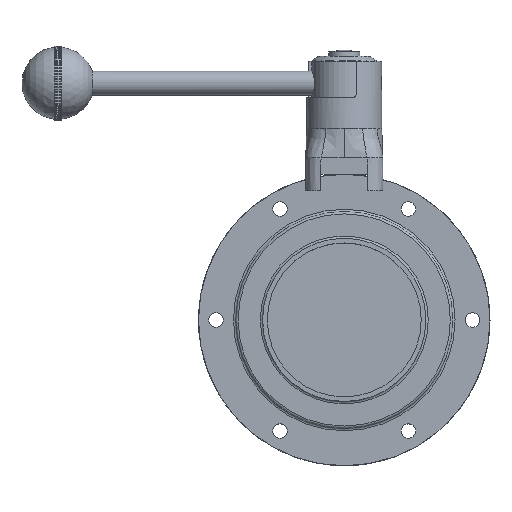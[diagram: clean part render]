
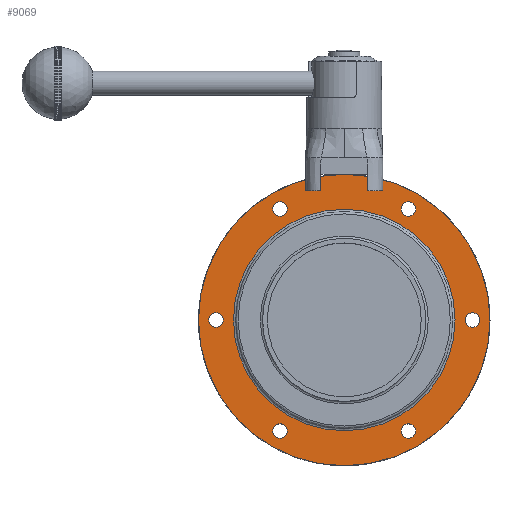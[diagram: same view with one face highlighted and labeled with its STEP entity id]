
A CAD part, top view. The second image highlights one B-rep face of the part: STEP entity #9069.
In plain terms, the highlighted planar face has unit normal (0, 0, 1) as drawn and (1, 0, 0) by its records, which use the part's own axes.
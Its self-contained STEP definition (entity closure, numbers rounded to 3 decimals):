
#814=FACE_BOUND('',#2432,.T.);
#815=FACE_BOUND('',#2433,.T.);
#816=FACE_BOUND('',#2434,.T.);
#817=FACE_BOUND('',#2435,.T.);
#818=FACE_BOUND('',#2436,.T.);
#819=FACE_BOUND('',#2437,.T.);
#820=FACE_BOUND('',#2438,.T.);
#1166=PLANE('',#10199);
#1812=FACE_OUTER_BOUND('',#2431,.T.);
#2431=EDGE_LOOP('',(#8506));
#2432=EDGE_LOOP('',(#8507));
#2433=EDGE_LOOP('',(#8508));
#2434=EDGE_LOOP('',(#8509));
#2435=EDGE_LOOP('',(#8510));
#2436=EDGE_LOOP('',(#8511));
#2437=EDGE_LOOP('',(#8512));
#2438=EDGE_LOOP('',(#8513));
#3864=CIRCLE('',#10180,62.5);
#3866=CIRCLE('',#10184,3.1);
#3867=CIRCLE('',#10186,3.1);
#3868=CIRCLE('',#10188,3.1);
#3869=CIRCLE('',#10190,3.1);
#3870=CIRCLE('',#10192,3.1);
#3871=CIRCLE('',#10194,3.1);
#3874=CIRCLE('',#10200,47.5);
#4708=VERTEX_POINT('',#26194);
#4711=VERTEX_POINT('',#26222);
#4712=VERTEX_POINT('',#26226);
#4713=VERTEX_POINT('',#26230);
#4714=VERTEX_POINT('',#26234);
#4715=VERTEX_POINT('',#26238);
#4716=VERTEX_POINT('',#26242);
#4718=VERTEX_POINT('',#26251);
#5966=EDGE_CURVE('',#4708,#4708,#3864,.T.);
#5972=EDGE_CURVE('',#4711,#4711,#3866,.T.);
#5974=EDGE_CURVE('',#4712,#4712,#3867,.T.);
#5976=EDGE_CURVE('',#4713,#4713,#3868,.T.);
#5978=EDGE_CURVE('',#4714,#4714,#3869,.T.);
#5980=EDGE_CURVE('',#4715,#4715,#3870,.T.);
#5982=EDGE_CURVE('',#4716,#4716,#3871,.T.);
#5985=EDGE_CURVE('',#4718,#4718,#3874,.T.);
#8506=ORIENTED_EDGE('',*,*,#5966,.T.);
#8507=ORIENTED_EDGE('',*,*,#5972,.T.);
#8508=ORIENTED_EDGE('',*,*,#5974,.T.);
#8509=ORIENTED_EDGE('',*,*,#5976,.T.);
#8510=ORIENTED_EDGE('',*,*,#5978,.T.);
#8511=ORIENTED_EDGE('',*,*,#5980,.T.);
#8512=ORIENTED_EDGE('',*,*,#5982,.T.);
#8513=ORIENTED_EDGE('',*,*,#5985,.F.);
#9069=ADVANCED_FACE('',(#1812,#814,#815,#816,#817,#818,#819,#820),#1166,
 .T.);
#10180=AXIS2_PLACEMENT_3D('',#26195,#12695,#12696);
#10184=AXIS2_PLACEMENT_3D('',#26224,#12705,#12706);
#10186=AXIS2_PLACEMENT_3D('',#26228,#12710,#12711);
#10188=AXIS2_PLACEMENT_3D('',#26232,#12715,#12716);
#10190=AXIS2_PLACEMENT_3D('',#26236,#12720,#12721);
#10192=AXIS2_PLACEMENT_3D('',#26240,#12725,#12726);
#10194=AXIS2_PLACEMENT_3D('',#26244,#12730,#12731);
#10199=AXIS2_PLACEMENT_3D('',#26250,#12740,#12741);
#10200=AXIS2_PLACEMENT_3D('',#26252,#12742,#12743);
#12695=DIRECTION('center_axis',(1.,0.,0.));
#12696=DIRECTION('ref_axis',(0.,0.,-1.));
#12705=DIRECTION('center_axis',(-1.,0.,0.));
#12706=DIRECTION('ref_axis',(0.,0.,1.));
#12710=DIRECTION('center_axis',(-1.,0.,0.));
#12711=DIRECTION('ref_axis',(0.,0.,1.));
#12715=DIRECTION('center_axis',(-1.,0.,0.));
#12716=DIRECTION('ref_axis',(0.,0.,1.));
#12720=DIRECTION('center_axis',(-1.,0.,0.));
#12721=DIRECTION('ref_axis',(0.,0.,1.));
#12725=DIRECTION('center_axis',(-1.,0.,0.));
#12726=DIRECTION('ref_axis',(0.,0.,1.));
#12730=DIRECTION('center_axis',(-1.,0.,0.));
#12731=DIRECTION('ref_axis',(0.,0.,1.));
#12740=DIRECTION('center_axis',(1.,0.,0.));
#12741=DIRECTION('ref_axis',(0.,0.,-1.));
#12742=DIRECTION('center_axis',(1.,0.,0.));
#12743=DIRECTION('ref_axis',(0.,0.,-1.));
#26194=CARTESIAN_POINT('',(10.,-62.5,0.));
#26195=CARTESIAN_POINT('Origin',(10.,0.,0.));
#26222=CARTESIAN_POINT('',(10.,-47.631,24.4));
#26224=CARTESIAN_POINT('Origin',(10.,-47.631,27.5));
#26226=CARTESIAN_POINT('',(10.,0.,-58.1));
#26228=CARTESIAN_POINT('Origin',(10.,0.,-55.));
#26230=CARTESIAN_POINT('',(10.,0.,51.9));
#26232=CARTESIAN_POINT('Origin',(10.,0.,55.));
#26234=CARTESIAN_POINT('',(10.,47.631,-30.6));
#26236=CARTESIAN_POINT('Origin',(10.,47.631,-27.5));
#26238=CARTESIAN_POINT('',(10.,-47.631,-30.6));
#26240=CARTESIAN_POINT('Origin',(10.,-47.631,-27.5));
#26242=CARTESIAN_POINT('',(10.,47.631,24.4));
#26244=CARTESIAN_POINT('Origin',(10.,47.631,27.5));
#26250=CARTESIAN_POINT('Origin',(10.,47.5,0.));
#26251=CARTESIAN_POINT('',(10.,0.,47.5));
#26252=CARTESIAN_POINT('Origin',(10.,0.,0.));
